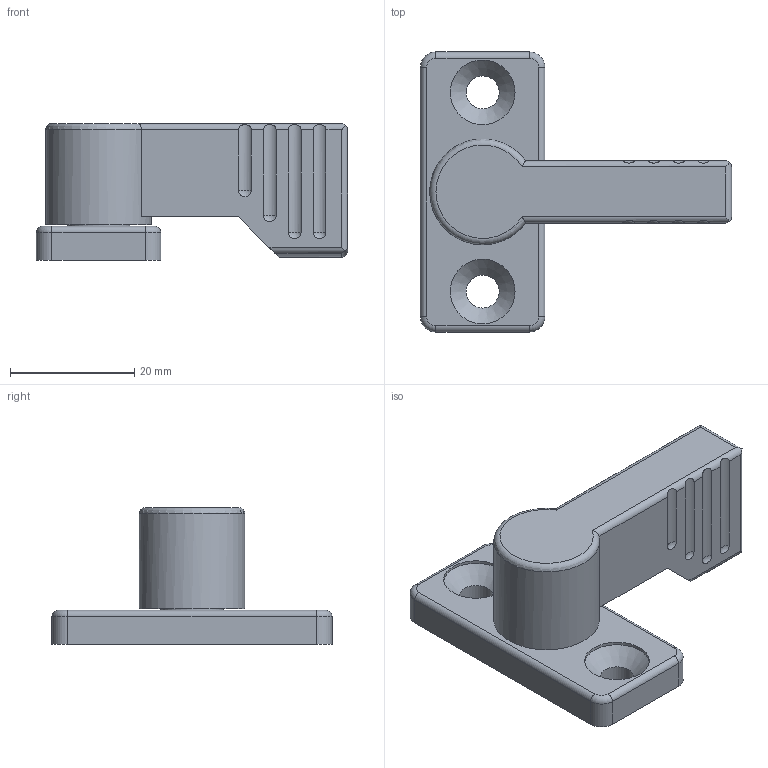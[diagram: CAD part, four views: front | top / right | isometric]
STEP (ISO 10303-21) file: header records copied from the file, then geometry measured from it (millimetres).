
FILE_DESCRIPTION(/* description */ ('STEP AP214'),/* implementation_level */ '2;1');
FILE_NAME(/* name */ 'Stop Lock GN 702-17-40-A-RS (0)',/* time_stamp */ '2024-08-05T12:09:19+02:00',/* author */ ('License CC BY-ND 4.0'),/* organization */ ('CADENAS'),/* preprocessor_version */ 'ST-DEVELOPER v19.3',/* originating_system */ 'PARTsolutions',/* authorisation */ ' ');
FILE_SCHEMA (('AUTOMOTIVE_DESIGN {1 0 10303 214 3 1 1}'));
Length unit declared in the file: millimetre
Products named in the file (3): Stop Lock GN 702-17-40-A-RS (0); Stop Lock GN 702-17-40-A-RS-1; Stop Lock GN 702-17-40-A-RS-2
Assembly tree (2 placements, depth 2):
  Stop Lock GN 702-17-40-A-RS (0)
    Stop Lock GN 702-17-40-A-RS-1
    Stop Lock GN 702-17-40-A-RS-2
Bounding box: 50 x 45 x 22 mm (x, y, z)
Volume: 13749.6 mm3; surface area: 5977.2 mm2
Topology: 2 solids, 2 shells, 70 faces, 166 edges, 106 vertices
Faces by surface type: cylinder 35, plane 19, sphere 8, torus 6, cone 2
Full cylindrical faces by diameter (mm): 5.3 x2, 9 x2, 10 x4, 10.4 x2, 17 x1
Entity records: 2081 total; most frequent: CARTESIAN_POINT 398, DIRECTION 357, ORIENTED_EDGE 304, EDGE_CURVE 152, AXIS2_PLACEMENT_3D 146, VERTEX_POINT 105, EDGE_LOOP 93, FACE_BOUND 93
